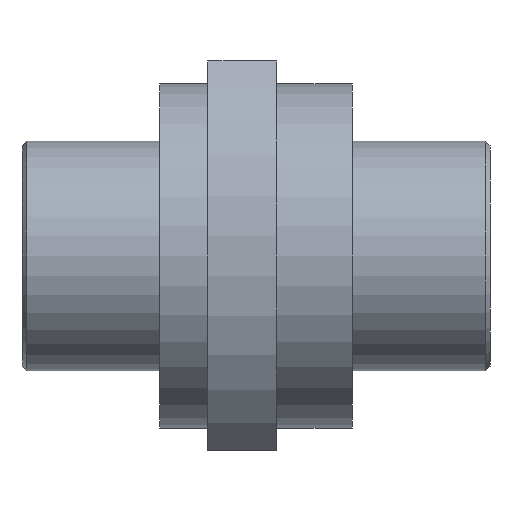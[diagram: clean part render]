
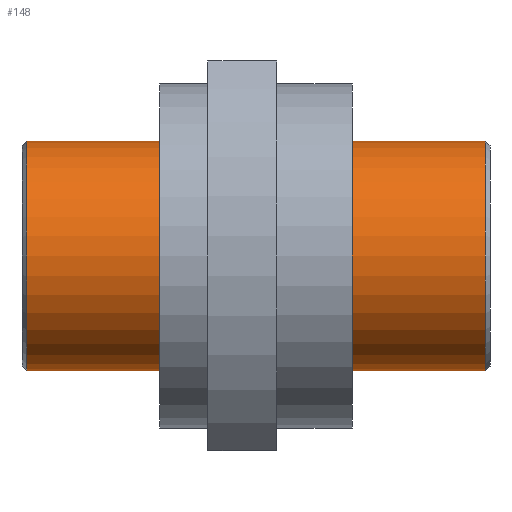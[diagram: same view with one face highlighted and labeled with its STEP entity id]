
A CAD part, front view. The second image highlights one B-rep face of the part: STEP entity #148.
In plain terms, the highlighted cylindrical face has radius 25 mm (diameter 50 mm), a full revolution.
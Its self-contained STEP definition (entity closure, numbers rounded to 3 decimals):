
#126=CYLINDRICAL_SURFACE('',#515,25.);
#148=ADVANCED_FACE('',(#221,#222),#126,.T.);
#221=FACE_BOUND('',#279,.T.);
#222=FACE_BOUND('',#280,.T.);
#279=EDGE_LOOP('',(#355));
#280=EDGE_LOOP('',(#356));
#355=ORIENTED_EDGE('',*,*,#431,.T.);
#356=ORIENTED_EDGE('',*,*,#432,.T.);
#393=VERTEX_POINT('',#727);
#394=VERTEX_POINT('',#729);
#431=EDGE_CURVE('',#393,#393,#461,.T.);
#432=EDGE_CURVE('',#394,#394,#462,.T.);
#461=CIRCLE('',#513,25.);
#462=CIRCLE('',#514,25.);
#513=AXIS2_PLACEMENT_3D('',#726,#626,#627);
#514=AXIS2_PLACEMENT_3D('',#728,#628,#629);
#515=AXIS2_PLACEMENT_3D('',#730,#630,#631);
#626=DIRECTION('',(-1.,0.,0.));
#627=DIRECTION('',(0.,0.,-1.));
#628=DIRECTION('',(1.,0.,0.));
#629=DIRECTION('',(0.,0.,1.));
#630=DIRECTION('',(-1.,0.,0.));
#631=DIRECTION('',(0.,0.,-1.));
#726=CARTESIAN_POINT('',(405.107,60.088,2.606));
#727=CARTESIAN_POINT('',(405.107,60.088,-22.394));
#728=CARTESIAN_POINT('',(305.107,60.088,2.606));
#729=CARTESIAN_POINT('',(305.107,60.088,27.606));
#730=CARTESIAN_POINT('',(355.107,60.088,2.606));
